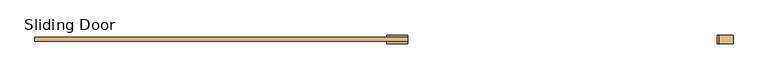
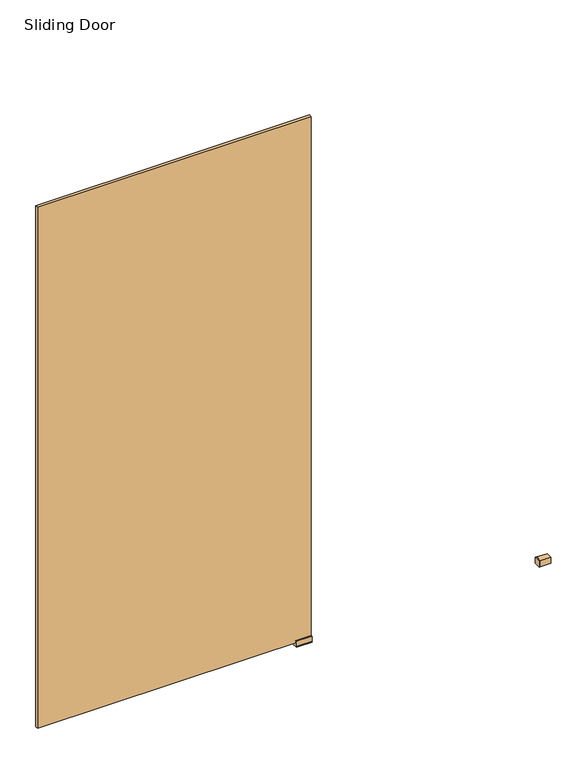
"""IFC4 building model written with IfcOpenShell, lengths in millimetres: door geometry, 2019_EN_Panel_Klein_Nature_Single-Door : Sliding Door."""

from ifc_helpers import new_model, si_unit, frame, origin, origin_with_axes, place, context, project, spatial, polyline, outline, extrude, source, transform, mapped, element, save


def sliding_door_c2c969da(model_context):
    return source(origin(), model_context, "Body", "SweptSolid", [
        extrude(outline(polyline([(-499.9999999, -5.7), (559.9999999, -5.7), (559.9999999, -17.7), (-499.9999999, -17.7), (-499.9999999, -5.7)])), frame((0.0, 0.0, 15.0), z_axis=(0.0, 0.0, 1.0), x_axis=(1.0, 0.0, 0.0)), (0.0, 0.0, 1.0), 2133.1000015),
        extrude(outline(polyline([(1444.9999998, 0.8), (1484.9999998, 0.8), (1484.9999998, -24.2), (1444.9999998, -24.2), (1444.9999998, 0.8)])), origin_with_axes(), (0.0, 0.0, 1.0), 25.0),
        extrude(outline(polyline([(-5.7, 25.0), (0.8, 25.0), (0.8, 5.0), (-0.2, 5.0), (-0.2, 0.0), (-23.2, 0.0), (-23.2, 5.0), (-24.2, 5.0), (-24.2, 25.0), (-17.7, 25.0), (-17.7, 15.0), (-5.7, 15.0), (-5.7, 25.0)])), frame((499.9999999, 0.0, 0.0), z_axis=(1.0, 0.0, 0.0), x_axis=(0.0, 1.0, 0.0)), (0.0, 0.0, 1.0), 60.0),
        extrude(outline(polyline([(1439.9999998, -24.2), (1439.9999998, 0.8), (1444.9999998, 0.8), (1444.9999998, -24.2), (1439.9999998, -24.2)])), origin_with_axes(), (0.0, 0.0, 1.0), 25.0),
    ])


if __name__ == "__main__":
    model = new_model("IFC4")
    model_context = context("Model", 3, world=origin())
    ifc_project = project(units=[si_unit("LENGTHUNIT", "METRE", prefix="MILLI")], contexts=[model_context])
    site = spatial("IfcSite", under=ifc_project)
    building = spatial("IfcBuilding", under=site)
    placement = place(None, origin())
    sliding_door_shape = sliding_door_c2c969da(model_context)
    element("IfcDoor", 1, ObjectType="2019_EN_Panel_Klein_Nature_Single-Door : Sliding Door", at=placement, inside=building, context=model_context, shape_type="MappedRepresentation", body=[
        mapped(sliding_door_shape, transform((0.0, 0.0, 0.0), x_axis=(1.0, 0.0, 0.0), y_axis=(0.0, 1.0, 0.0), z_axis=(0.0, 0.0, 1.0))),
    ])
    save(model, "model.ifc")
